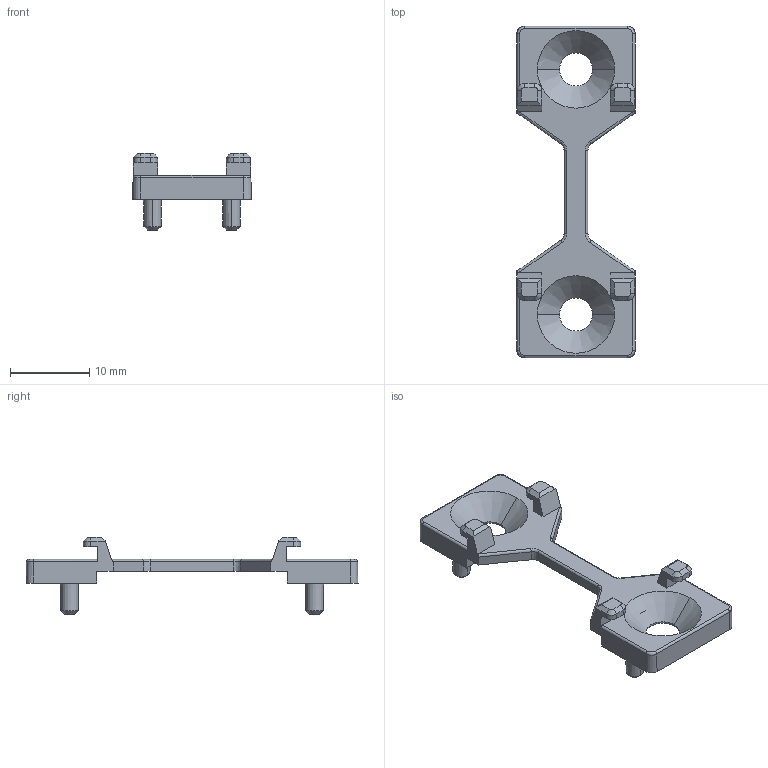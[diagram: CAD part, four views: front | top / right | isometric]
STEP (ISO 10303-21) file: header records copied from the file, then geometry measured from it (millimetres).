
FILE_DESCRIPTION((''),'2;1');
FILE_NAME('16206850_ACL-BRIDGE-LLE24-40','2015-05-27T',('bernhard.fink'),(''),'PRO/ENGINEER BY PARAMETRIC TECHNOLOGY CORPORATION, 2014000','PRO/ENGINEER BY PARAMETRIC TECHNOLOGY CORPORATION, 2014000','');
FILE_SCHEMA(('AUTOMOTIVE_DESIGN { 1 0 10303 214 1 1 1 1 }'));
Length unit declared in the file: millimetre
Products named in the file (1): 16206850_ACL-BRIDGE-LLE24-40
Bounding box: 15 x 42 x 9.8 mm (x, y, z)
Volume: 852.9 mm3; surface area: 1548.5 mm2
Topology: 1 solids, 1 shells, 218 faces, 608 edges, 396 vertices
Faces by surface type: plane 106, cone 92, cylinder 12, torus 8
Entity records: 9361 total; most frequent: CARTESIAN_POINT 1446, ORIENTED_EDGE 1216, DIRECTION 1200, PRESENTATION_STYLE_ASSIGNMENT 609, STYLED_ITEM 609, CURVE_STYLE 608, EDGE_CURVE 608, AXIS2_PLACEMENT_3D 426
